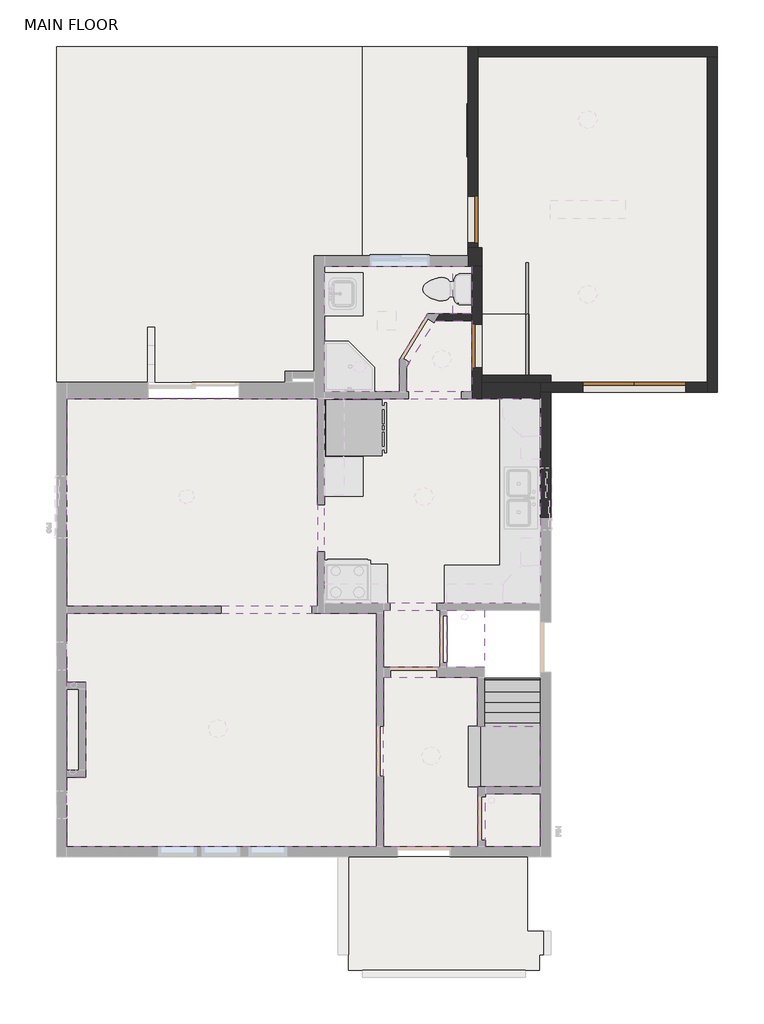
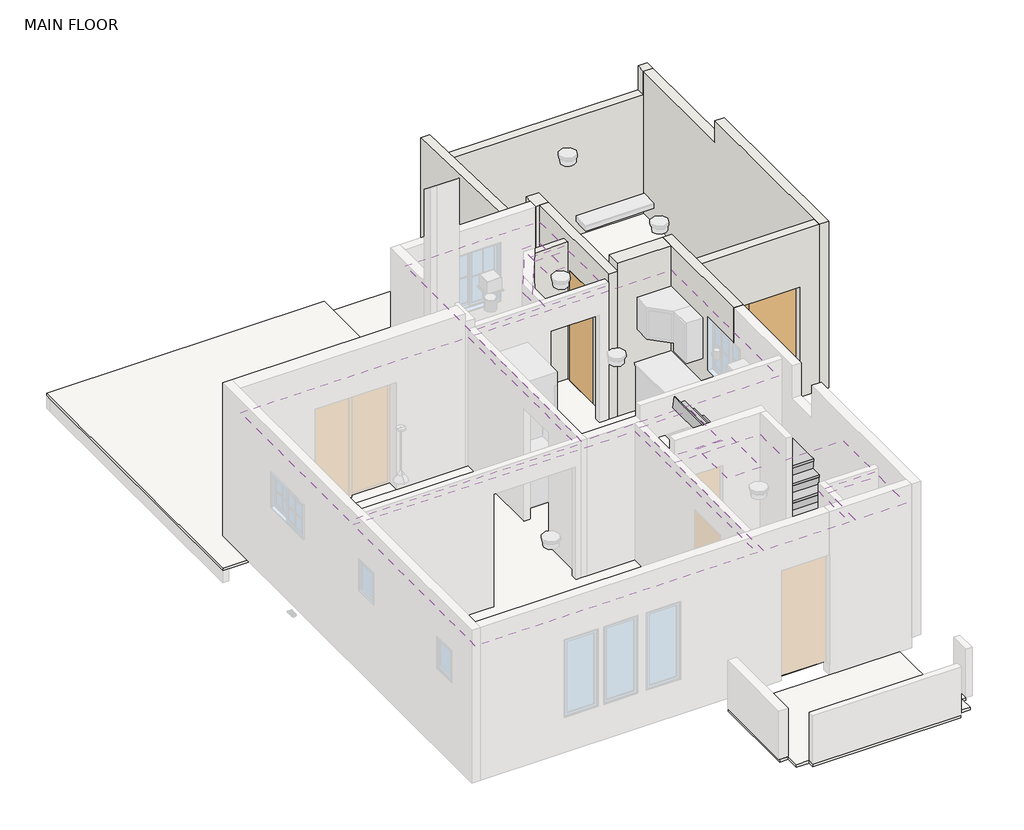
# One storey, part 2 of 3: 10 coverings, 10 walls, 8 slabs, 3 doors, 1 railing, 1 stair flight, 1 window.
"""IFC4 building model written with IfcOpenShell, lengths in millimetres."""

from ifc_helpers import new_model, si_unit, point, frame, frame_2d, origin, origin_with_axes, place, context, project, spatial, polyline, circle_curve, ellipse_curve, trimmed, segment, composite_curve, outline, extrude, faceted_brep, transform, mapped, element, save
from ifc_brep_helpers import plane_surface, cylinder_surface, advanced_brep
from components import door_c55a3a29, door_33e9856f, door_7d71c894, stair_flight_50mm_tread_25mm_nosing_13mm_riser_2104a416, window_1e8c2bce

model = new_model("IFC4")

# Units and contexts
model_context = context("Model", 3, world=origin())
ifc_project = project(units=[si_unit("LENGTHUNIT", "METRE", prefix="MILLI")], contexts=[model_context])

# Site, building, storey
site = spatial("IfcSite", under=ifc_project)
building = spatial("IfcBuilding", under=site)
storey = spatial("IfcBuildingStorey", under=building, Name="MAIN FLOOR", Elevation=0.0)

# Coverings
placement = place(None, origin())
element("IfcCovering", 1, ObjectType="Bulk Head", at=placement, inside=storey, context=model_context, shape_type="SweptSolid", body=[
    extrude(outline(polyline([(392.5, 8275.45), (697.3, 8275.45), (697.3, 7500.75), (392.5, 7500.75), (392.5, 8275.45)])), frame((0.0, 0.0, 2032.0), z_axis=(0.0, 0.0, 1.0), x_axis=(1.0, 0.0, 0.0)), (0.0, 0.0, 1.0), 152.4),
])
element("IfcCovering", 2, ObjectType="1/2\" Ceiling", at=placement, inside=storey, context=model_context, shape_type="SweptSolid", body=[
    extrude(outline(polyline([(-483.8, 6235.7), (-1703.0, 6235.7), (-1703.0, 8275.45), (697.3, 8275.45), (697.3, 7500.75), (-23.5010633, 7500.75), (-483.8, 6756.7090974), (-483.8, 6235.7)]), holes=[composite_curve([segment(trimmed(circle_curve(frame_2d((-1125.15, 6637.15)), 87.3), [point((-1037.85, 6637.15))], [point((-1212.45, 6637.15))], True, "CARTESIAN"), True, "CONTINUOUS"), segment(trimmed(circle_curve(frame_2d((-1125.15, 6637.15)), 87.3), [point((-1212.45, 6637.15))], [point((-1037.85, 6637.15))], True, "CARTESIAN"), True, "CONTINUOUS")], self_intersect=False)]), frame((0.0, 0.0, 2438.4), z_axis=(0.0, 0.0, 1.0), x_axis=(1.0, 0.0, 0.0)), (0.0, 0.0, 1.0), 12.7),
])
element("IfcCovering", 3, ObjectType="1/2\" Ceiling", at=placement, inside=storey, context=model_context, shape_type="SweptSolid", body=[
    extrude(outline(polyline([(-1817.3, 2744.6), (-5894.0, 2744.6), (-5894.0, 6121.4), (-1817.3, 6121.4), (-1817.3, 2744.6)])), frame((0.0, 0.0, 2438.4), z_axis=(0.0, 0.0, 1.0), x_axis=(1.0, 0.0, 0.0)), (0.0, 0.0, 1.0), 12.7),
])
element("IfcCovering", 4, ObjectType="1/2\" Ceiling", at=placement, inside=storey, context=model_context, shape_type="SweptSolid", body=[
    extrude(outline(polyline([(-5894.0, -1162.05), (-5894.0, 2630.3), (-1760.15, 2630.3), (-852.1, 2630.3), (-852.1, -1162.05), (-5894.0, -1162.05)])), frame((0.0, 0.0, 2438.4), z_axis=(0.0, 0.0, 1.0), x_axis=(1.0, 0.0, 0.0)), (0.0, 0.0, 1.0), 12.7),
])
element("IfcCovering", 5, ObjectType="1/2\" Ceiling", at=placement, inside=storey, context=model_context, shape_type="SweptSolid", body=[
    extrude(outline(polyline([(176.6, 1752.6), (-737.8, 1752.6), (-737.8, 2681.1), (176.6, 2681.1), (176.6, 1752.6)])), frame((0.0, 0.0, 2438.4), z_axis=(0.0, 0.0, 1.0), x_axis=(1.0, 0.0, 0.0)), (0.0, 0.0, 1.0), 12.7),
])
element("IfcCovering", 6, ObjectType="1/2\" Ceiling", at=placement, inside=storey, context=model_context, shape_type="SweptSolid", body=[
    extrude(outline(polyline([(798.9, -190.5), (798.9, -1162.05), (-737.8, -1162.05), (-737.8, 1587.5), (786.2, 1587.5), (786.2, 795.15), (1814.9, 795.15), (1814.9, -190.5), (798.9, -190.5)])), frame((0.0, 0.0, 2438.4), z_axis=(0.0, 0.0, 1.0), x_axis=(1.0, 0.0, 0.0)), (0.0, 0.0, 1.0), 12.7),
])
element("IfcCovering", 7, ObjectType="1/2\" Ceiling", at=placement, inside=storey, context=model_context, shape_type="SweptSolid", body=[
    extrude(outline(polyline([(1814.9, -1162.05), (913.2, -1162.05), (913.2, -304.8), (1814.9, -304.8), (1814.9, -1162.05)])), frame((0.0, 0.0, 2438.4), z_axis=(0.0, 0.0, 1.0), x_axis=(1.0, 0.0, 0.0)), (0.0, 0.0, 1.0), 12.7),
])
element("IfcCovering", 8, ObjectType="1/2\" Ceiling", at=placement, inside=storey, context=model_context, shape_type="SweptSolid", body=[
    extrude(outline(polyline([(697.3, 7386.45), (697.3, 6235.7), (-369.5, 6235.7), (-369.5, 6627.6534281), (99.9274926, 7386.45), (697.3, 7386.45)])), frame((0.0, 0.0, 2438.4), z_axis=(0.0, 0.0, 1.0), x_axis=(1.0, 0.0, 0.0)), (0.0, 0.0, 1.0), 12.7),
])
element("IfcCovering", 9, ObjectType="1/2\" Ceiling", at=placement, inside=storey, context=model_context, shape_type="SweptSolid", body=[
    extrude(outline(polyline([(-1703.0, 6121.4), (1814.9, 6121.4), (1814.9, 4180.65), (1814.9, 2795.4), (-794.95, 2795.4), (-1703.0, 2795.4), (-1703.0, 6121.4)])), frame((0.0, 0.0, 2438.4), z_axis=(0.0, 0.0, 1.0), x_axis=(1.0, 0.0, 0.0)), (0.0, 0.0, 1.0), 12.7),
])
element("IfcCovering", 10, ObjectType="1/2\" Ceiling", at=placement, inside=storey, context=model_context, shape_type="SweptSolid", body=[
    extrude(outline(polyline([(900.5, 2681.1), (900.5, 1752.6), (290.9, 1752.6), (290.9, 2681.1), (900.5, 2681.1)])), frame((0.0, 0.0, 1676.4), z_axis=(0.0, 0.0, 1.0), x_axis=(1.0, 0.0, 0.0)), (0.0, 0.0, 1.0), 12.7),
])

# Doors
door_shape = door_c55a3a29(model_context)
element("IfcDoor", 11, ObjectType="Planitar - Single Door_Flush Panel : 2'-4\" x 6'-8\" @45", at=placement, inside=storey, context=model_context, shape_type="MappedRepresentation", body=[
    mapped(door_shape, transform((779.85, 6976.15, 0.0), x_axis=(0.0, 1.0, 0.0), y_axis=(-1.0, 0.0, 0.0), z_axis=(0.0, 0.0, 1.0))),
])
door_2_shape = door_33e9856f(model_context)
element("IfcDoor", 12, ObjectType="Planitar - Single Door_Flush Panel : 2'-6\" x 6'-8\"", at=placement, inside=storey, context=model_context, shape_type="MappedRepresentation", body=[
    mapped(door_2_shape, transform((716.35, 9032.9740389, -812.8), x_axis=(0.0, 1.0, 0.0), y_axis=(-1.0, 0.0, 0.0), z_axis=(0.0, 0.0, 1.0))),
])
door_3_shape = door_7d71c894(model_context)
element("IfcDoor", 13, ObjectType="Planitar - Double Door_Flush Panel : 5'-6\" x 6'-8\"", at=placement, inside=storey, context=model_context, shape_type="MappedRepresentation", body=[
    mapped(door_3_shape, transform((3338.9, 6305.55, -812.8), x_axis=(1.0, 0.0, 0.0), y_axis=(0.0, 1.0, 0.0), z_axis=(0.0, 0.0, 1.0))),
])

# Railing
element("IfcRailing", 14, ObjectType="900mm Pipe", at=placement, inside=storey, context=model_context, shape_type="SolidModel", body=[
    advanced_brep(
    [(1579.0, 8331.0112782, 224.408048), (1619.0, 8331.0112782, 224.408048), (1579.0, 7489.4039398, 880.0), (1619.0, 7489.4039398, 880.0), (1579.0, 6502.4, 880.0), (1619.0, 6502.4, 880.0)],
    [
        (0, 1, ellipse_curve(frame((1599.0, 8331.0112782, 224.408048), z_axis=(0.0, 1.0, 0.0), x_axis=(0.0, 0.0, -1.0)), 25.351952, 20.0)),
        (1, 0, ellipse_curve(frame((1599.0, 8331.0112782, 224.408048), z_axis=(0.0, 1.0, 0.0), x_axis=(0.0, 0.0, -1.0)), 25.351952, 20.0)),
        (0, 2),
        (2, 3, ellipse_curve(frame((1599.0, 7489.4039398, 880.0), z_axis=(0.0, 0.9457520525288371, -0.32488929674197), x_axis=(0.0, -0.3248892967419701, -0.9457520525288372)), 21.1471917, 20.0)),
        (3, 1),
        (3, 2, ellipse_curve(frame((1599.0, 7489.4039398, 880.0), z_axis=(0.0, 0.9457520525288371, -0.32488929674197), x_axis=(0.0, -0.3248892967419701, -0.9457520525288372)), 21.1471917, 20.0)),
        (4, 5, circle_curve(frame((1599.0, 6502.4, 880.0), z_axis=(0.0, -1.0, 0.0), x_axis=(1.0, 0.0, 0.0)), 20.0)),
        (5, 4, circle_curve(frame((1599.0, 6502.4, 880.0), z_axis=(0.0, -1.0, 0.0), x_axis=(1.0, 0.0, 0.0)), 20.0)),
        (2, 4),
        (5, 3),
    ],
    [
        plane_surface(frame((1599.0, 8331.0112782, 249.76), z_axis=(0.0, 1.0, 0.0), x_axis=(0.0, 0.0, -1.0))),
        cylinder_surface(frame((1599.0, 8318.7206894, 233.9821222), z_axis=(0.0, 0.7888938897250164, -0.6145294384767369), x_axis=(1.0, 0.0, 0.0)), 20.0),
        plane_surface(frame((1599.0, 6502.4, 900.0), z_axis=(0.0, -1.0, 0.0), x_axis=(0.0, 0.0, -1.0))),
        cylinder_surface(frame((1599.0, 7496.2744361, 880.0), z_axis=(0.0, 1.0, 0.0), x_axis=(1.0, 0.0, 0.0)), 20.0),
    ],
    [
        (0, [[1, 2]]),
        (1, [[-1, 3, 4, 5]]),
        (1, [[-2, -5, 6, -3]]),
        (2, [[7, 8]]),
        (3, [[-4, 9, -8, 10]]),
        (3, [[-6, -10, -7, -9]]),
    ],
),
    advanced_brep(
    [(1584.0, 6502.4, 760.0), (1614.0, 6502.4, 760.0), (1584.0, 7491.1215639, 760.0), (1614.0, 7491.1215639, 760.0), (1584.0, 8331.0112782, 105.746036), (1614.0, 8331.0112782, 105.746036)],
    [
        (0, 1, circle_curve(frame((1599.0, 6502.4, 760.0), z_axis=(0.0, -1.0, 0.0), x_axis=(1.0, 0.0, 0.0)), 15.0)),
        (1, 0, circle_curve(frame((1599.0, 6502.4, 760.0), z_axis=(0.0, -1.0, 0.0), x_axis=(1.0, 0.0, 0.0)), 15.0)),
        (0, 2),
        (2, 3, ellipse_curve(frame((1599.0, 7491.1215639, 760.0), z_axis=(0.0, -0.9457520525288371, 0.32488929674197), x_axis=(0.0, -0.32488929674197, -0.9457520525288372)), 15.8603938, 15.0)),
        (3, 1),
        (3, 2, ellipse_curve(frame((1599.0, 7491.1215639, 760.0), z_axis=(0.0, -0.9457520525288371, 0.32488929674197), x_axis=(0.0, -0.32488929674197, -0.9457520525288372)), 15.8603938, 15.0)),
        (4, 5, ellipse_curve(frame((1599.0, 8331.0112782, 105.746036), z_axis=(0.0, 1.0, 0.0), x_axis=(0.0, 0.0, 1.0)), 19.013964, 15.0)),
        (5, 4, ellipse_curve(frame((1599.0, 8331.0112782, 105.746036), z_axis=(0.0, 1.0, 0.0), x_axis=(0.0, 0.0, 1.0)), 19.013964, 15.0)),
        (2, 4),
        (5, 3),
    ],
    [
        plane_surface(frame((1599.0, 6502.4, 775.0), z_axis=(0.0, -1.0, 0.0), x_axis=(0.0, 0.0, 1.0))),
        cylinder_surface(frame((1599.0, 6502.4, 760.0), z_axis=(0.0, -1.0, 0.0), x_axis=(1.0, 0.0, 0.0)), 15.0),
        plane_surface(frame((1599.0, 8331.0112782, 124.76), z_axis=(0.0, 1.0, 0.0), x_axis=(0.0, 0.0, 1.0))),
        cylinder_surface(frame((1599.0, 7487.0564945, 763.1665917), z_axis=(0.0, -0.7888938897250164, 0.614529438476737), x_axis=(1.0, 0.0, 0.0)), 15.0),
    ],
    [
        (0, [[1, 2]]),
        (1, [[-1, 3, 4, 5]]),
        (1, [[-2, -5, 6, -3]]),
        (2, [[7, 8]]),
        (3, [[-4, 9, -8, 10]]),
        (3, [[-6, -10, -7, -9]]),
    ],
),
    advanced_brep(
    [(1584.0, 6502.4, 635.0), (1614.0, 6502.4, 635.0), (1584.0, 7491.1215639, 635.0), (1614.0, 7491.1215639, 635.0), (1584.0, 8331.0112782, -19.253964), (1614.0, 8331.0112782, -19.253964)],
    [
        (0, 1, circle_curve(frame((1599.0, 6502.4, 635.0), z_axis=(0.0, -1.0, 0.0), x_axis=(1.0, 0.0, 0.0)), 15.0)),
        (1, 0, circle_curve(frame((1599.0, 6502.4, 635.0), z_axis=(0.0, -1.0, 0.0), x_axis=(1.0, 0.0, 0.0)), 15.0)),
        (0, 2),
        (2, 3, ellipse_curve(frame((1599.0, 7491.1215639, 635.0), z_axis=(0.0, -0.9457520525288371, 0.32488929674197), x_axis=(0.0, -0.32488929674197, -0.9457520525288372)), 15.8603938, 15.0)),
        (3, 1),
        (3, 2, ellipse_curve(frame((1599.0, 7491.1215639, 635.0), z_axis=(0.0, -0.9457520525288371, 0.32488929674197), x_axis=(0.0, -0.32488929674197, -0.9457520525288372)), 15.8603938, 15.0)),
        (4, 5, ellipse_curve(frame((1599.0, 8331.0112782, -19.253964), z_axis=(0.0, 1.0, 0.0), x_axis=(0.0, 0.0, 1.0)), 19.013964, 15.0)),
        (5, 4, ellipse_curve(frame((1599.0, 8331.0112782, -19.253964), z_axis=(0.0, 1.0, 0.0), x_axis=(0.0, 0.0, 1.0)), 19.013964, 15.0)),
        (2, 4),
        (5, 3),
    ],
    [
        plane_surface(frame((1599.0, 6502.4, 650.0), z_axis=(0.0, -1.0, 0.0), x_axis=(0.0, 0.0, 1.0))),
        cylinder_surface(frame((1599.0, 6502.4, 635.0), z_axis=(0.0, -1.0, 0.0), x_axis=(1.0, 0.0, 0.0)), 15.0),
        plane_surface(frame((1599.0, 8331.0112782, -0.24), z_axis=(0.0, 1.0, 0.0), x_axis=(0.0, 0.0, 1.0))),
        cylinder_surface(frame((1599.0, 7487.0564945, 638.1665917), z_axis=(0.0, -0.7888938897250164, 0.614529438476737), x_axis=(1.0, 0.0, 0.0)), 15.0),
    ],
    [
        (0, [[1, 2]]),
        (1, [[-1, 3, 4, 5]]),
        (1, [[-2, -5, 6, -3]]),
        (2, [[7, 8]]),
        (3, [[-4, 9, -8, 10]]),
        (3, [[-6, -10, -7, -9]]),
    ],
),
    advanced_brep(
    [(1584.0, 6502.4, 510.0), (1614.0, 6502.4, 510.0), (1584.0, 7491.1215639, 510.0), (1614.0, 7491.1215639, 510.0), (1584.0, 8331.0112782, -144.253964), (1614.0, 8331.0112782, -144.253964)],
    [
        (0, 1, circle_curve(frame((1599.0, 6502.4, 510.0), z_axis=(0.0, -1.0, 0.0), x_axis=(1.0, 0.0, 0.0)), 15.0)),
        (1, 0, circle_curve(frame((1599.0, 6502.4, 510.0), z_axis=(0.0, -1.0, 0.0), x_axis=(1.0, 0.0, 0.0)), 15.0)),
        (0, 2),
        (2, 3, ellipse_curve(frame((1599.0, 7491.1215639, 510.0), z_axis=(0.0, -0.9457520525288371, 0.32488929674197), x_axis=(0.0, -0.32488929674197, -0.9457520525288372)), 15.8603938, 15.0)),
        (3, 1),
        (3, 2, ellipse_curve(frame((1599.0, 7491.1215639, 510.0), z_axis=(0.0, -0.9457520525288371, 0.32488929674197), x_axis=(0.0, -0.32488929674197, -0.9457520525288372)), 15.8603938, 15.0)),
        (4, 5, ellipse_curve(frame((1599.0, 8331.0112782, -144.253964), z_axis=(0.0, 1.0, 0.0), x_axis=(0.0, 0.0, 1.0)), 19.013964, 15.0)),
        (5, 4, ellipse_curve(frame((1599.0, 8331.0112782, -144.253964), z_axis=(0.0, 1.0, 0.0), x_axis=(0.0, 0.0, 1.0)), 19.013964, 15.0)),
        (2, 4),
        (5, 3),
    ],
    [
        plane_surface(frame((1599.0, 6502.4, 525.0), z_axis=(0.0, -1.0, 0.0), x_axis=(0.0, 0.0, 1.0))),
        cylinder_surface(frame((1599.0, 6502.4, 510.0), z_axis=(0.0, -1.0, 0.0), x_axis=(1.0, 0.0, 0.0)), 15.0),
        plane_surface(frame((1599.0, 8331.0112782, -125.24), z_axis=(0.0, 1.0, 0.0), x_axis=(0.0, 0.0, 1.0))),
        cylinder_surface(frame((1599.0, 7487.0564945, 513.1665917), z_axis=(0.0, -0.7888938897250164, 0.614529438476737), x_axis=(1.0, 0.0, 0.0)), 15.0),
    ],
    [
        (0, [[1, 2]]),
        (1, [[-1, 3, 4, 5]]),
        (1, [[-2, -5, 6, -3]]),
        (2, [[7, 8]]),
        (3, [[-4, 9, -8, 10]]),
        (3, [[-6, -10, -7, -9]]),
    ],
),
    advanced_brep(
    [(1584.0, 6502.4, 385.0), (1614.0, 6502.4, 385.0), (1584.0, 7491.1215639, 385.0), (1614.0, 7491.1215639, 385.0), (1584.0, 8331.0112782, -269.253964), (1614.0, 8331.0112782, -269.253964)],
    [
        (0, 1, circle_curve(frame((1599.0, 6502.4, 385.0), z_axis=(0.0, -1.0, 0.0), x_axis=(1.0, 0.0, 0.0)), 15.0)),
        (1, 0, circle_curve(frame((1599.0, 6502.4, 385.0), z_axis=(0.0, -1.0, 0.0), x_axis=(1.0, 0.0, 0.0)), 15.0)),
        (0, 2),
        (2, 3, ellipse_curve(frame((1599.0, 7491.1215639, 385.0), z_axis=(0.0, -0.9457520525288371, 0.32488929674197), x_axis=(0.0, -0.32488929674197, -0.9457520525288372)), 15.8603938, 15.0)),
        (3, 1),
        (3, 2, ellipse_curve(frame((1599.0, 7491.1215639, 385.0), z_axis=(0.0, -0.9457520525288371, 0.32488929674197), x_axis=(0.0, -0.32488929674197, -0.9457520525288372)), 15.8603938, 15.0)),
        (4, 5, ellipse_curve(frame((1599.0, 8331.0112782, -269.253964), z_axis=(0.0, 1.0, 0.0), x_axis=(0.0, 0.0, 1.0)), 19.013964, 15.0)),
        (5, 4, ellipse_curve(frame((1599.0, 8331.0112782, -269.253964), z_axis=(0.0, 1.0, 0.0), x_axis=(0.0, 0.0, 1.0)), 19.013964, 15.0)),
        (2, 4),
        (5, 3),
    ],
    [
        plane_surface(frame((1599.0, 6502.4, 400.0), z_axis=(0.0, -1.0, 0.0), x_axis=(0.0, 0.0, 1.0))),
        cylinder_surface(frame((1599.0, 6502.4, 385.0), z_axis=(0.0, -1.0, 0.0), x_axis=(1.0, 0.0, 0.0)), 15.0),
        plane_surface(frame((1599.0, 8331.0112782, -250.24), z_axis=(0.0, 1.0, 0.0), x_axis=(0.0, 0.0, 1.0))),
        cylinder_surface(frame((1599.0, 7487.0564945, 388.1665917), z_axis=(0.0, -0.7888938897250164, 0.614529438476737), x_axis=(1.0, 0.0, 0.0)), 15.0),
    ],
    [
        (0, [[1, 2]]),
        (1, [[-1, 3, 4, 5]]),
        (1, [[-2, -5, 6, -3]]),
        (2, [[7, 8]]),
        (3, [[-4, 9, -8, 10]]),
        (3, [[-6, -10, -7, -9]]),
    ],
),
    advanced_brep(
    [(1584.0, 6502.4, 260.0), (1614.0, 6502.4, 260.0), (1584.0, 7491.1215639, 260.0), (1614.0, 7491.1215639, 260.0), (1584.0, 8331.0112782, -394.253964), (1614.0, 8331.0112782, -394.253964)],
    [
        (0, 1, circle_curve(frame((1599.0, 6502.4, 260.0), z_axis=(0.0, -1.0, 0.0), x_axis=(1.0, 0.0, 0.0)), 15.0)),
        (1, 0, circle_curve(frame((1599.0, 6502.4, 260.0), z_axis=(0.0, -1.0, 0.0), x_axis=(1.0, 0.0, 0.0)), 15.0)),
        (0, 2),
        (2, 3, ellipse_curve(frame((1599.0, 7491.1215639, 260.0), z_axis=(0.0, -0.9457520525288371, 0.32488929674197), x_axis=(0.0, -0.32488929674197, -0.9457520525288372)), 15.8603938, 15.0)),
        (3, 1),
        (3, 2, ellipse_curve(frame((1599.0, 7491.1215639, 260.0), z_axis=(0.0, -0.9457520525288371, 0.32488929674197), x_axis=(0.0, -0.32488929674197, -0.9457520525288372)), 15.8603938, 15.0)),
        (4, 5, ellipse_curve(frame((1599.0, 8331.0112782, -394.253964), z_axis=(0.0, 1.0, 0.0), x_axis=(0.0, 0.0, 1.0)), 19.013964, 15.0)),
        (5, 4, ellipse_curve(frame((1599.0, 8331.0112782, -394.253964), z_axis=(0.0, 1.0, 0.0), x_axis=(0.0, 0.0, 1.0)), 19.013964, 15.0)),
        (2, 4),
        (5, 3),
    ],
    [
        plane_surface(frame((1599.0, 6502.4, 275.0), z_axis=(0.0, -1.0, 0.0), x_axis=(0.0, 0.0, 1.0))),
        cylinder_surface(frame((1599.0, 6502.4, 260.0), z_axis=(0.0, -1.0, 0.0), x_axis=(1.0, 0.0, 0.0)), 15.0),
        plane_surface(frame((1599.0, 8331.0112782, -375.24), z_axis=(0.0, 1.0, 0.0), x_axis=(0.0, 0.0, 1.0))),
        cylinder_surface(frame((1599.0, 7487.0564945, 263.1665917), z_axis=(0.0, -0.7888938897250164, 0.614529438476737), x_axis=(1.0, 0.0, 0.0)), 15.0),
    ],
    [
        (0, [[1, 2]]),
        (1, [[-1, 3, 4, 5]]),
        (1, [[-2, -5, 6, -3]]),
        (2, [[7, 8]]),
        (3, [[-4, 9, -8, 10]]),
        (3, [[-6, -10, -7, -9]]),
    ],
),
    advanced_brep(
    [(1584.0, 6502.4, 135.0), (1614.0, 6502.4, 135.0), (1584.0, 7491.1215639, 135.0), (1614.0, 7491.1215639, 135.0), (1584.0, 8331.0112782, -519.253964), (1614.0, 8331.0112782, -519.253964)],
    [
        (0, 1, circle_curve(frame((1599.0, 6502.4, 135.0), z_axis=(0.0, -1.0, 0.0), x_axis=(1.0, 0.0, 0.0)), 15.0)),
        (1, 0, circle_curve(frame((1599.0, 6502.4, 135.0), z_axis=(0.0, -1.0, 0.0), x_axis=(1.0, 0.0, 0.0)), 15.0)),
        (0, 2),
        (2, 3, ellipse_curve(frame((1599.0, 7491.1215639, 135.0), z_axis=(0.0, -0.9457520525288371, 0.32488929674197), x_axis=(0.0, -0.32488929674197, -0.9457520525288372)), 15.8603938, 15.0)),
        (3, 1),
        (3, 2, ellipse_curve(frame((1599.0, 7491.1215639, 135.0), z_axis=(0.0, -0.9457520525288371, 0.32488929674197), x_axis=(0.0, -0.32488929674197, -0.9457520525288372)), 15.8603938, 15.0)),
        (4, 5, ellipse_curve(frame((1599.0, 8331.0112782, -519.253964), z_axis=(0.0, 1.0, 0.0), x_axis=(0.0, 0.0, 1.0)), 19.013964, 15.0)),
        (5, 4, ellipse_curve(frame((1599.0, 8331.0112782, -519.253964), z_axis=(0.0, 1.0, 0.0), x_axis=(0.0, 0.0, 1.0)), 19.013964, 15.0)),
        (2, 4),
        (5, 3),
    ],
    [
        plane_surface(frame((1599.0, 6502.4, 150.0), z_axis=(0.0, -1.0, 0.0), x_axis=(0.0, 0.0, 1.0))),
        cylinder_surface(frame((1599.0, 6502.4, 135.0), z_axis=(0.0, -1.0, 0.0), x_axis=(1.0, 0.0, 0.0)), 15.0),
        plane_surface(frame((1599.0, 8331.0112782, -500.24), z_axis=(0.0, 1.0, 0.0), x_axis=(0.0, 0.0, 1.0))),
        cylinder_surface(frame((1599.0, 7487.0564945, 138.1665917), z_axis=(0.0, -0.7888938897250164, 0.614529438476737), x_axis=(1.0, 0.0, 0.0)), 15.0),
    ],
    [
        (0, [[1, 2]]),
        (1, [[-1, 3, 4, 5]]),
        (1, [[-2, -5, 6, -3]]),
        (2, [[7, 8]]),
        (3, [[-4, 9, -8, 10]]),
        (3, [[-6, -10, -7, -9]]),
    ],
),
    advanced_brep(
    [(1611.5, 7502.4, 844.5244285), (1611.5, 7502.4, -162.56), (1586.5, 7502.4, -162.56), (1586.5, 7502.4, 844.5244285)],
    [
        (0, 1),
        (1, 2, circle_curve(frame((1599.0, 7502.4, -162.56), z_axis=(0.0, 0.0, 1.0), x_axis=(-1.0, 0.0, 0.0)), 12.5)),
        (2, 3),
        (3, 0, ellipse_curve(frame((1599.0, 7502.4, 844.5244285), z_axis=(0.0, -0.6145294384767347, -0.7888938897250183), x_axis=(0.0, -0.7888938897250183, 0.6145294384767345)), 15.84497, 12.5)),
        (0, 3, ellipse_curve(frame((1599.0, 7502.4, 844.5244285), z_axis=(0.0, -0.6145294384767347, -0.7888938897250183), x_axis=(0.0, -0.7888938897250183, 0.6145294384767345)), 15.84497, 12.5)),
        (2, 1, circle_curve(frame((1599.0, 7502.4, -162.56), z_axis=(0.0, 0.0, 1.0), x_axis=(-1.0, 0.0, 0.0)), 12.5)),
    ],
    [
        cylinder_surface(frame((1599.0, 7502.4, -262.56), z_axis=(0.0, 0.0, 1.0), x_axis=(-1.0, 0.0, 0.0)), 12.5),
        plane_surface(frame((1574.0, 7527.4, 825.0500275), z_axis=(0.0, 0.6145294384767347, 0.7888938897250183), x_axis=(1.0, 0.0, 0.0))),
        plane_surface(frame((1574.0, 7477.4, -162.56), z_axis=(0.0, 0.0, -1.0), x_axis=(1.0, 0.0, 0.0))),
    ],
    [
        (0, [[1, 2, 3, 4]]),
        (0, [[-1, 5, -3, 6]]),
        (1, [[-4, -5]]),
        (2, [[-2, -6]]),
    ],
),
    advanced_brep(
    [(1611.5, 8318.5112782, 208.7932966), (1611.5, 8318.5112782, -650.24), (1586.5, 8318.5112782, -650.24), (1586.5, 8318.5112782, 208.7932966)],
    [
        (0, 1),
        (1, 2, circle_curve(frame((1599.0, 8318.5112782, -650.24), z_axis=(0.0, 0.0, 1.0), x_axis=(-1.0, 0.0, 0.0)), 12.5)),
        (2, 3),
        (3, 0, ellipse_curve(frame((1599.0, 8318.5112782, 208.7932966), z_axis=(0.0, -0.6145294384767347, -0.7888938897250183), x_axis=(0.0, -0.7888938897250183, 0.6145294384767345)), 15.84497, 12.5)),
        (0, 3, ellipse_curve(frame((1599.0, 8318.5112782, 208.7932966), z_axis=(0.0, -0.6145294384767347, -0.7888938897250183), x_axis=(0.0, -0.7888938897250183, 0.6145294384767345)), 15.84497, 12.5)),
        (2, 1, circle_curve(frame((1599.0, 8318.5112782, -650.24), z_axis=(0.0, 0.0, 1.0), x_axis=(-1.0, 0.0, 0.0)), 12.5)),
    ],
    [
        cylinder_surface(frame((1599.0, 8318.5112782, -750.24), z_axis=(0.0, 0.0, 1.0), x_axis=(-1.0, 0.0, 0.0)), 12.5),
        plane_surface(frame((1574.0, 8343.5112782, 189.3188956), z_axis=(0.0, 0.6145294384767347, 0.7888938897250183), x_axis=(1.0, 0.0, 0.0))),
        plane_surface(frame((1574.0, 8293.5112782, -650.24), z_axis=(0.0, 0.0, -1.0), x_axis=(1.0, 0.0, 0.0))),
    ],
    [
        (0, [[1, 2, 3, 4]]),
        (0, [[-1, 5, -3, 6]]),
        (1, [[-4, -5]]),
        (2, [[-2, -6]]),
    ],
),
    extrude(outline(composite_curve([segment(trimmed(circle_curve(frame_2d((1599.0, 6514.9)), 12.5), [point((1586.5, 6514.9))], [point((1611.5, 6514.9))], False, "CARTESIAN"), True, "CONTINUOUS"), segment(trimmed(circle_curve(frame_2d((1599.0, 6514.9)), 12.5), [point((1611.5, 6514.9))], [point((1586.5, 6514.9))], False, "CARTESIAN"), True, "CONTINUOUS")], self_intersect=False)), origin_with_axes(), (0.0, 0.0, 1.0), 860.0),
])

# Slabs
element("IfcSlab", 15, ObjectType="Ledge - 2\"", at=placement, inside=storey, context=model_context, shape_type="SweptSolid", body=[
    extrude(outline(polyline([(4526.35, 11679.05), (4526.35, 6388.1), (1980.0, 6388.1), (1980.0, 6502.4), (862.4, 6502.4), (862.4, 8575.7740389), (798.9, 8575.7740389), (798.9, 11679.05), (4526.35, 11679.05)])), frame((0.0, 0.0, -863.6), z_axis=(0.0, 0.0, 1.0), x_axis=(1.0, 0.0, 0.0)), (0.0, 0.0, 1.0), 50.8),
])
element("IfcSlab", 16, ObjectType="Ledge - 2\"", at=placement, inside=storey, context=model_context, shape_type="SweptSolid", body=[
    extrude(outline(polyline([(-5894.0, 1510.6), (-5586.1, 1510.6), (-5586.1, -33.5), (-5894.0, -33.5), (-5894.0, 1510.6)])), frame((0.0, 0.0, 1320.8), z_axis=(0.0, 0.0, 1.0), x_axis=(1.0, 0.0, 0.0)), (0.0, 0.0, 1.0), 50.8),
])
element("IfcSlab", 17, ObjectType="Ledge - 2\"", at=placement, inside=storey, context=model_context, shape_type="SweptSolid", body=[
    extrude(outline(polyline([(697.3, 8275.45), (697.3, 6121.4), (1814.9, 6121.4), (1814.9, 2681.1), (290.9, 2681.1), (290.9, 1752.6), (900.5, 1752.6), (900.5, 802.2), (1814.9, 802.2), (1814.9, -1162.05), (-5894.0, -1162.05), (-5894.0, 6121.4), (-1703.0, 6121.4), (-1703.0, 8275.45), (697.3, 8275.45)])), frame((0.0, 0.0, -50.8), z_axis=(0.0, 0.0, 1.0), x_axis=(1.0, 0.0, 0.0)), (0.0, 0.0, 1.0), 50.8),
])
element("IfcSlab", 18, ObjectType="Ledge - 2\"", at=placement, inside=storey, context=model_context, shape_type="SweptSolid", body=[
    extrude(outline(polyline([(1567.25, -3281.55), (-1084.7554062, -3281.55), (-1084.7554062, -3175.0), (-1313.3554062, -3175.0), (-1313.3554062, -2921.0), (-1468.05, -2921.0), (-1468.05, -1327.15), (1600.8, -1327.15), (1600.8, -2540.0), (1865.7, -2540.0), (1865.7, -2921.0), (1795.85, -2921.0), (1795.85, -3175.0), (1567.25, -3175.0), (1567.25, -3281.55)])), frame((0.0, 0.0, -241.3), z_axis=(0.0, 0.0, 1.0), x_axis=(1.0, 0.0, 0.0)), (0.0, 0.0, 1.0), 50.8),
])
element("IfcSlab", 19, ObjectType="Ledge - 2\"", at=placement, inside=storey, context=model_context, shape_type="SweptSolid", body=[
    extrude(outline(polyline([(1624.4, 7496.2744361), (1624.4, 6502.4), (862.4, 6502.4), (862.4, 7496.2744361), (1624.4, 7496.2744361)])), frame((0.0, 0.0, -50.8), z_axis=(0.0, 0.0, 1.0), x_axis=(1.0, 0.0, 0.0)), (0.0, 0.0, 1.0), 50.8),
])
element("IfcSlab", 20, ObjectType="Ledge - 2\"", at=placement, inside=storey, context=model_context, shape_type="SweptSolid", body=[
    extrude(outline(polyline([(-5589.2, 1510.6), (-5589.2, -38.1), (-5894.0, -38.1), (-5894.0, 1510.6), (-5589.2, 1510.6)])), frame((0.0, 0.0, -50.8), z_axis=(0.0, 0.0, 1.0), x_axis=(1.0, 0.0, 0.0)), (0.0, 0.0, 1.0), 50.8),
])
element("IfcSlab", 21, ObjectType="Ledge - 2\"", at=placement, inside=storey, context=model_context, shape_type="SweptSolid", body=[
    extrude(outline(polyline([(-1093.4, 11844.15), (633.8, 11844.15), (633.8, 8440.55), (-1093.4, 8440.55), (-1093.4, 11844.15)])), frame((0.0, 0.0, -889.0), z_axis=(0.0, 0.0, 1.0), x_axis=(1.0, 0.0, 0.0)), (0.0, 0.0, 1.0), 50.8),
])
element("IfcSlab", 22, ObjectType="Ledge - 2\"", at=placement, inside=storey, context=model_context, shape_type="SweptSolid", body=[
    extrude(outline(polyline([(-6059.1, 11844.15), (-1093.4, 11844.15), (-1093.4, 8440.55), (-1868.1, 8440.55), (-1868.1, 6567.3), (-2344.35, 6567.3), (-2344.35, 6388.1), (-6059.1, 6388.1), (-6059.1, 11844.15)])), frame((0.0, 0.0, -660.4), z_axis=(0.0, 0.0, 1.0), x_axis=(1.0, 0.0, 0.0)), (0.0, 0.0, 1.0), 50.8),
])

# Stair flight
stair_flight_50mm_tread_25mm_nosing_13mm_riser_shape = stair_flight_50mm_tread_25mm_nosing_13mm_riser_2104a416(model_context)
element("IfcStairFlight", 23, ObjectType="50mm Tread 25mm Nosing 13mm Riser", at=placement, inside=storey, context=model_context, shape_type="MappedRepresentation", body=[
    mapped(stair_flight_50mm_tread_25mm_nosing_13mm_riser_shape, transform((0.0, 0.0, 0.0), x_axis=(1.0, 0.0, 0.0), y_axis=(0.0, 1.0, 0.0), z_axis=(0.0, 0.0, 1.0))),
])

# Walls
element("IfcWall", 24, ObjectType="Planitar - Generic 6 1/2\"", at=placement, inside=storey, context=model_context, shape_type="Brep", body=[
    faceted_brep([(697.3, 8275.45, -863.6), (697.3, 6388.1, -863.6), (697.3, 6388.1, 0.0), (697.3, 6235.7, 0.0), (697.3, 6121.4, 0.0), (697.3, 6121.4, 2590.8), (697.3, 6121.4, 2743.2), (697.3, 8275.45, 2743.2), (697.3, 6620.55, 0.0), (697.3, 7331.75, 0.0), (697.3, 7331.75, 2082.8), (697.3, 6620.55, 2082.8), (862.4, 8275.45, -863.6), (862.4, 8275.45, 2743.2), (862.4, 6121.4, 2743.2), (862.4, 6121.4, 0.0), (862.4, 6388.1, 0.0), (862.4, 6388.1, -812.8), (862.4, 6388.1, -863.6), (862.4, 6620.55, 0.0), (862.4, 6620.55, 2082.8), (862.4, 7331.75, 2082.8), (862.4, 7331.75, 0.0), (779.85, 6388.1, 0.0)], [[[0, 1, 2, 3, 4, 5, 6, 7], [8, 9, 10, 11]], [[12, 13, 14, 15, 16, 17, 18], [19, 20, 21, 22]], [[1, 0, 12, 18]], [[7, 6, 14, 13]], [[0, 7, 13, 12]], [[9, 8, 19, 22]], [[10, 9, 22, 21]], [[11, 10, 21, 20]], [[8, 11, 20, 19]], [[15, 4, 3, 2, 23, 16]], [[2, 1, 18, 17, 16, 23]], [[6, 5, 4, 15, 14]]]),
])
element("IfcWall", 25, ObjectType="Planitar - Generic 6 1/2\"", at=placement, inside=storey, context=model_context, shape_type="Brep", body=[
    faceted_brep([(1814.9, 6223.0, 0.0), (1814.9, 6121.4, 0.0), (1814.9, 4180.65, 0.0), (1814.9, 4180.65, 1219.2), (1814.9, 4993.45, 1219.2), (1814.9, 4993.45, 2235.2), (1814.9, 4180.65, 2235.2), (1814.9, 4180.65, 2895.6), (1814.9, 6121.4, 2895.6), (1814.9, 6388.1, 2895.6), (1814.9, 6388.1, 2286.0), (1814.9, 6223.0, 2286.0), (1980.0, 4180.65, 0.0), (1980.0, 6032.5, 0.0), (1980.0, 6223.0, 0.0), (1980.0, 6223.0, 2286.0), (1980.0, 6388.1, 2286.0), (1980.0, 6388.1, 2895.6), (1980.0, 4180.65, 2895.6), (1980.0, 4180.65, 2235.2), (1980.0, 4993.45, 2235.2), (1980.0, 4993.45, 1219.2), (1980.0, 4180.65, 1219.2)], [[[0, 1, 2, 3, 4, 5, 6, 7, 8, 9, 10, 11]], [[12, 13, 14, 15, 16, 17, 18, 19, 20, 21, 22]], [[2, 1, 0, 14, 13, 12]], [[2, 12, 22, 3]], [[18, 7, 6, 19]], [[9, 8, 7, 18, 17]], [[21, 4, 3, 22]], [[5, 20, 19, 6]], [[4, 21, 20, 5]], [[16, 15, 11, 10]], [[0, 11, 15, 14]], [[10, 9, 17, 16]]]),
])
element("IfcWall", 26, ObjectType="Planitar - Generic 9\"", at=placement, inside=storey, context=model_context, shape_type="Brep", body=[
    faceted_brep([(862.4, 8275.45, -863.6), (862.4, 8575.7740389, -863.6), (862.4, 8575.7740389, 2743.2), (862.4, 8275.45, 2743.2), (633.8, 8275.45, -863.6), (633.8, 8275.45, 2743.2), (633.8, 8440.55, 2743.2), (633.8, 8575.7740389, 2743.2), (633.8, 8575.7740389, 1981.2), (633.8, 8575.7740389, -863.6), (633.8, 8440.55, -863.6), (697.3, 8275.45, -863.6), (798.9, 8575.7740389, -863.6), (697.3, 8275.45, 2743.2)], [[[0, 1, 2, 3]], [[4, 5, 6, 7, 8, 9, 10]], [[1, 0, 11, 4, 10, 9, 12]], [[2, 1, 12, 9, 8, 7]], [[3, 2, 7, 6, 5, 13]], [[0, 3, 13, 5, 4, 11]]]),
])
element("IfcWall", 27, ObjectType="Planitar - Generic 6 1/2\"", at=placement, inside=storey, context=model_context, shape_type="Brep", body=[
    faceted_brep([(798.9, 11679.05, -863.6), (4526.35, 11679.05, -863.6), (4691.45, 11679.05, -863.6), (4691.45, 11679.05, 1879.6), (4526.35, 11679.05, 1879.6), (4526.35, 11679.05, 1428.2800809), (798.9, 11679.05, 1428.2800809), (798.9, 11844.15, -863.6), (798.9, 11844.15, 1428.2800809), (4526.35, 11844.15, 1428.2800809), (4526.35, 11844.15, 1879.6), (4691.45, 11844.15, 1879.6), (4691.45, 11844.15, -863.6)], [[[0, 1, 2, 3, 4, 5, 6]], [[7, 8, 9, 10, 11, 12]], [[0, 6, 8, 7]], [[3, 2, 12, 11]], [[2, 1, 0, 7, 12]], [[6, 5, 9, 8]], [[4, 3, 11, 10]], [[5, 4, 10, 9]]]),
])
element("IfcWall", 28, ObjectType="Planitar - Generic 6 1/2\"", at=placement, inside=storey, context=model_context, shape_type="Brep", body=[
    faceted_brep([(4526.35, 11679.05, -863.6), (4526.35, 6388.1, -863.6), (4526.35, 6223.0, -863.6), (4526.35, 6223.0, 2286.0), (4526.35, 6388.1, 2286.0), (4526.35, 9465.45, 2286.0), (4526.35, 9465.45, 1879.6), (4526.35, 11679.05, 1879.6), (4526.35, 11679.05, 1428.2800809), (4691.45, 11679.05, -863.6), (4691.45, 11679.05, 1879.6), (4691.45, 9465.45, 1879.6), (4691.45, 9465.45, 2286.0), (4691.45, 6223.0, 2286.0), (4691.45, 6223.0, -863.6)], [[[0, 1, 2, 3, 4, 5, 6, 7, 8]], [[9, 10, 11, 12, 13, 14]], [[0, 8, 7, 10, 9]], [[3, 2, 14, 13]], [[2, 1, 0, 9, 14]], [[5, 4, 3, 13, 12]], [[6, 5, 12, 11]], [[7, 6, 11, 10]]]),
])
element("IfcWall", 29, ObjectType="Planitar - Generic 6 1/2\"", at=placement, inside=storey, context=model_context, shape_type="Brep", body=[
    faceted_brep([(4526.35, 6388.1, -863.6), (1980.0, 6388.1, -863.6), (1980.0, 6388.1, 0.0), (1814.9, 6388.1, 0.0), (1814.9, 6388.1, 2286.0), (1980.0, 6388.1, 2286.0), (4526.35, 6388.1, 2286.0), (4177.1, 6388.1, -812.8), (4177.1, 6388.1, 1219.2), (2500.7, 6388.1, 1219.2), (2500.7, 6388.1, -812.8), (1980.0, 6223.0, -863.6), (4526.35, 6223.0, -863.6), (4526.35, 6223.0, 2286.0), (1980.0, 6223.0, 2286.0), (1814.9, 6223.0, 2286.0), (1814.9, 6223.0, 0.0), (1980.0, 6223.0, 0.0), (4177.1, 6223.0, 1219.2), (4177.1, 6223.0, -812.8), (2500.7, 6223.0, -812.8), (2500.7, 6223.0, 1219.2)], [[[0, 1, 2, 3, 4, 5, 6], [7, 8, 9, 10]], [[11, 12, 13, 14, 15, 16, 17], [18, 19, 20, 21]], [[1, 0, 12, 11]], [[6, 5, 4, 15, 14, 13]], [[0, 6, 13, 12]], [[7, 19, 18, 8]], [[8, 18, 21, 9]], [[9, 21, 20, 10]], [[19, 7, 10, 20]], [[15, 4, 3, 16]], [[16, 3, 2, 17]], [[1, 11, 17, 2]]]),
])
element("IfcWall", 30, ObjectType="Planitar - Generic 6 1/2\"", at=placement, inside=storey, context=model_context, shape_type="Brep", body=[
    faceted_brep([(798.9, 8575.7740389, -863.6), (798.9, 11679.05, -863.6), (798.9, 11844.15, -863.6), (798.9, 11844.15, 1428.2800809), (798.9, 11844.15, 1876.9673766), (798.9, 8575.7740389, 1981.2), (798.9, 8651.9740389, -812.8), (798.9, 8651.9740389, 1219.2), (798.9, 9413.9740389, 1219.2), (798.9, 9413.9740389, -812.8), (798.9, 10913.25, 812.8), (798.9, 10913.25, 50.8), (798.9, 10049.65, 50.8), (798.9, 10049.65, 812.8), (633.8, 8575.7740389, -863.6), (633.8, 8575.7740389, 1981.2), (633.8, 11844.15, 1876.9673766), (633.8, 11844.15, -863.6), (633.8, 8651.9740389, -812.8), (633.8, 9413.9740389, -812.8), (633.8, 9413.9740389, 1219.2), (633.8, 8651.9740389, 1219.2), (633.8, 10913.25, 812.8), (633.8, 10049.65, 812.8), (633.8, 10049.65, 50.8), (633.8, 10913.25, 50.8)], [[[0, 1, 2, 3, 4, 5], [6, 7, 8, 9], [10, 11, 12, 13]], [[14, 15, 16, 17], [18, 19, 20, 21], [22, 23, 24, 25]], [[4, 3, 2, 17, 16]], [[19, 18, 6, 9]], [[20, 19, 9, 8]], [[21, 20, 8, 7]], [[18, 21, 7, 6]], [[11, 10, 22, 25]], [[12, 11, 25, 24]], [[13, 12, 24, 23]], [[10, 13, 23, 22]], [[2, 1, 0, 14, 17]], [[0, 5, 15, 14]], [[5, 4, 16, 15]]]),
])
element("IfcWall", 31, ObjectType="Planitar - Generic 4 1/2\"", at=placement, inside=storey, context=model_context, shape_type="SweptSolid", body=[
    extrude(outline(polyline([(697.3, 7386.45), (99.9274926, 7386.45), (170.6388853, 7500.75), (697.3, 7500.75), (697.3, 7386.45)])), origin_with_axes(), (0.0, 0.0, 1.0), 2590.8),
])
element("IfcWall", 32, ObjectType="Planitar - Generic 4 1/2\"", at=placement, inside=storey, context=model_context, shape_type="Brep", body=[
    faceted_brep([(862.4, 6388.1, -812.8), (1980.0, 6388.1, -812.8), (1980.0, 6388.1, 0.0), (1980.0, 6388.1, 2286.0), (1814.9, 6388.1, 2286.0), (862.4, 6388.1, 2286.0), (862.4, 6388.1, 0.0), (862.4, 6502.4, -812.8), (862.4, 6502.4, 2286.0), (1980.0, 6502.4, 2286.0), (1980.0, 6502.4, -812.8)], [[[0, 1, 2, 3, 4, 5, 6]], [[7, 8, 9, 10]], [[0, 6, 5, 8, 7]], [[1, 0, 7, 10]], [[3, 2, 1, 10, 9]], [[5, 4, 3, 9, 8]]]),
])
element("IfcWall", 33, ObjectType="Planitar - Generic 10 1/2\"", at=placement, inside=storey, context=model_context, shape_type="Brep", body=[
    faceted_brep([(1814.9, 6388.1, 2895.6), (1814.9, 6388.1, 2286.0), (1814.9, 6388.1, 0.0), (862.4, 6388.1, 0.0), (862.4, 6388.1, 2286.0), (862.4, 6388.1, 2895.6), (1814.9, 6121.4, 0.0), (1814.9, 6121.4, 2895.6), (862.4, 6121.4, 2895.6), (862.4, 6121.4, 2743.2), (862.4, 6121.4, 0.0), (1814.9, 6223.0, 0.0)], [[[0, 1, 2, 3, 4, 5]], [[6, 7, 8, 9, 10]], [[3, 2, 11, 6, 10]], [[0, 5, 8, 7]], [[5, 4, 3, 10, 9, 8]], [[0, 7, 6, 11, 2, 1]]]),
])

# Window
window_shape = window_1e8c2bce(model_context)
element("IfcWindow", 34, ObjectType="Planitar-Sliding-Double : 60\" x 48\"", at=placement, inside=storey, context=model_context, shape_type="MappedRepresentation", body=[
    mapped(window_shape, transform((712.54, 10481.45, -863.6), x_axis=(0.0, 1.0, 0.0), y_axis=(-1.0, 0.0, 0.0), z_axis=(0.0, 0.0, 1.0))),
])

save(model, "model.ifc")
